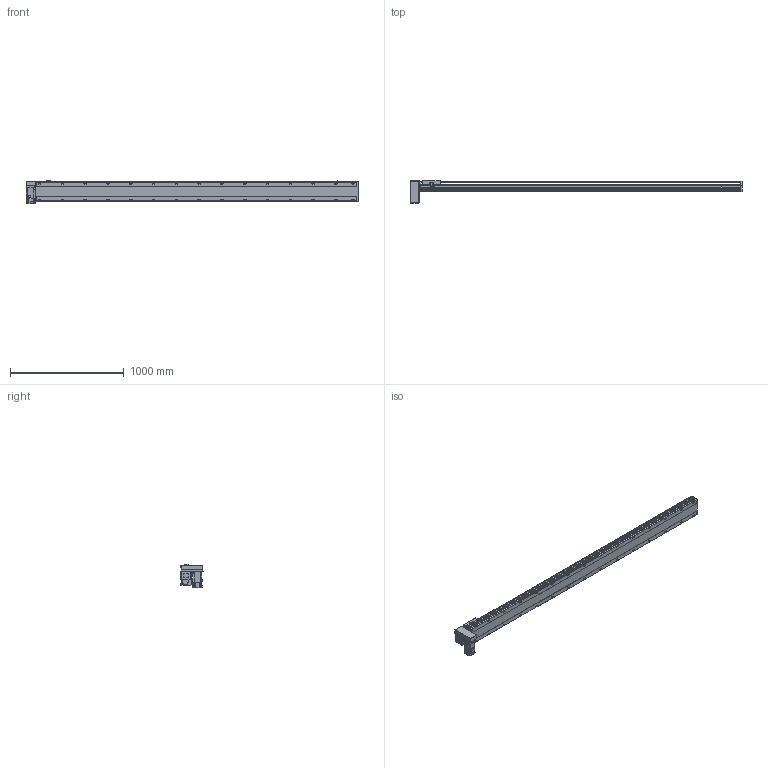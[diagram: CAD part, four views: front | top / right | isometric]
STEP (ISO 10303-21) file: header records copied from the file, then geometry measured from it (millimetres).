
FILE_DESCRIPTION(/* description */ ('STEP AP214'),/* implementation_level */ '2;1');
FILE_NAME(/* name */ 'PBS170-P40-S2550-RD-T75-C1-N(0)',/* time_stamp */ '2022-06-08T07:37:55+02:00',/* author */ ('License CC BY-ND 4.0'),/* organization */ ('CADENAS'),/* preprocessor_version */ 'ST-DEVELOPER v18.102',/* originating_system */ 'PARTsolutions',/* authorisation */ ' ');
FILE_SCHEMA (('AUTOMOTIVE_DESIGN {1 0 10303 214 3 1 1}'));
Length unit declared in the file: millimetre
Products named in the file (7): PBS170-P40-S2550-RD-T75-C1-N(0); PBS170_sensor; PBS170_plant; PBS170_sliser; T75-p1; PBS170T-RD_motors; PBS170-S2550()_body
Assembly tree (8 placements, depth 2):
  PBS170-P40-S2550-RD-T75-C1-N(0)
    PBS170_sensor  x3
    PBS170_plant
    PBS170_sliser
    T75-p1
    PBS170T-RD_motors
    PBS170-S2550()_body
Bounding box: 2913 x 201 x 205.3 mm (x, y, z)
Volume: 22035218.2 mm3; surface area: 2772426.8 mm2
Topology: 8 solids, 8 shells, 1194 faces, 3155 edges, 2056 vertices
Faces by surface type: plane 729, cylinder 395, cone 60, sphere 8, torus 2
Full cylindrical faces by diameter (mm): 3.242 x4, 4 x2, 4.4 x4, 4.5 x6, 4.917 x4, 6 x9, 6.647 x38, 7 x2, 7.5 x4, 8 x8, 8.5 x30, 10 x4, 10.5 x30, 11 x2, 30 x2, 40 x1, 70 x1
Entity records: 34324 total; most frequent: CARTESIAN_POINT 6497, DIRECTION 5790, ORIENTED_EDGE 5448, EDGE_CURVE 2724, AXIS2_PLACEMENT_3D 2047, VERTEX_POINT 1898, LINE 1696, VECTOR 1696
